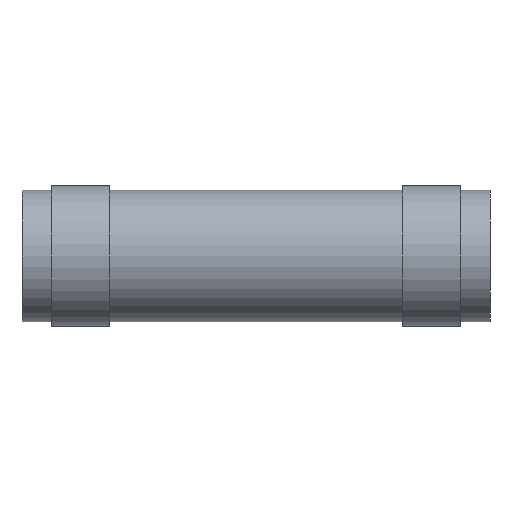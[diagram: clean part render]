
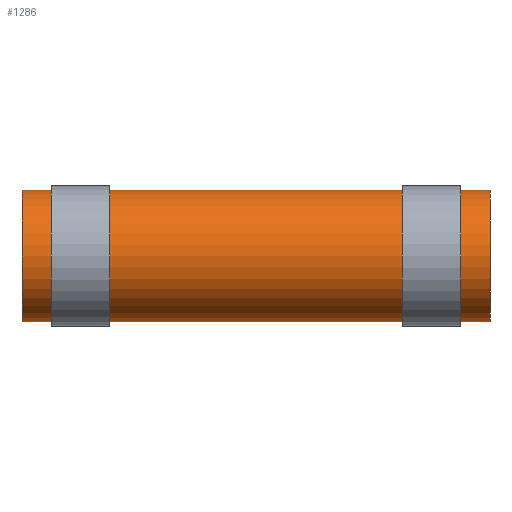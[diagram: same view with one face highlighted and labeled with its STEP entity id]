
A CAD part, front view. The second image highlights one B-rep face of the part: STEP entity #1286.
In plain terms, the highlighted cylindrical face has radius 7.144 mm (diameter 14.288 mm), a partial arc.
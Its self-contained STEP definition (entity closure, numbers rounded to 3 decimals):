
#229 = DIRECTION ( 'NONE',  ( 0., 0., 1. ) ) ;
#233 = CARTESIAN_POINT ( 'NONE',  ( 25.4, 0., 0. ) ) ;
#258 = CARTESIAN_POINT ( 'NONE',  ( 25.4, 0., 0. ) ) ;
#277 = DIRECTION ( 'NONE',  ( 1., 0., 0. ) ) ;
#287 = DIRECTION ( 'NONE',  ( 0., 0., -1. ) ) ;
#312 = DIRECTION ( 'NONE',  ( -1., 0., 0. ) ) ;
#332 = CARTESIAN_POINT ( 'NONE',  ( -25.4, 0., -7.144 ) ) ;
#354 = CARTESIAN_POINT ( 'NONE',  ( 25.4, 0., 7.144 ) ) ;
#357 = DIRECTION ( 'NONE',  ( -1., 0., 0. ) ) ;
#364 = CARTESIAN_POINT ( 'NONE',  ( -25.4, 0., 7.144 ) ) ;
#381 = CARTESIAN_POINT ( 'NONE',  ( 25.4, 0., -7.144 ) ) ;
#387 = CARTESIAN_POINT ( 'NONE',  ( 25.4, 0., 7.144 ) ) ;
#418 = CARTESIAN_POINT ( 'NONE',  ( 25.4, 0., -7.144 ) ) ;
#419 = DIRECTION ( 'NONE',  ( 0., 0., -1. ) ) ;
#450 = DIRECTION ( 'NONE',  ( -1., 0., 0. ) ) ;
#457 = CARTESIAN_POINT ( 'NONE',  ( -25.4, 0., 0. ) ) ;
#461 = DIRECTION ( 'NONE',  ( 1., 0., 0. ) ) ;
#462 = VECTOR ( 'NONE', #357, 1000. ) ;
#463 = LINE ( 'NONE', #354, #462 ) ;
#464 = CIRCLE ( 'NONE', #901, 7.144 ) ;
#544 = VECTOR ( 'NONE', #450, 1000. ) ;
#547 = LINE ( 'NONE', #418, #544 ) ;
#548 = CIRCLE ( 'NONE', #955, 7.144 ) ;
#578 = ORIENTED_EDGE ( 'NONE', *, *, #958, .T. ) ;
#579 = ORIENTED_EDGE ( 'NONE', *, *, #1039, .T. ) ;
#580 = ORIENTED_EDGE ( 'NONE', *, *, #1038, .F. ) ;
#581 = ORIENTED_EDGE ( 'NONE', *, *, #965, .F. ) ;
#648 = EDGE_LOOP ( 'NONE', ( #581, #580, #579, #578 ) ) ;
#692 = VERTEX_POINT ( 'NONE', #364 ) ;
#693 = VERTEX_POINT ( 'NONE', #387 ) ;
#700 = VERTEX_POINT ( 'NONE', #381 ) ;
#798 = VERTEX_POINT ( 'NONE', #332 ) ;
#888 = AXIS2_PLACEMENT_3D ( 'NONE', #258, #312, #229 ) ;
#901 = AXIS2_PLACEMENT_3D ( 'NONE', #233, #277, #287 ) ;
#955 = AXIS2_PLACEMENT_3D ( 'NONE', #457, #461, #419 ) ;
#958 = EDGE_CURVE ( 'NONE', #692, #798, #548, .T. ) ;
#965 = EDGE_CURVE ( 'NONE', #700, #798, #547, .T. ) ;
#1038 = EDGE_CURVE ( 'NONE', #693, #700, #464, .T. ) ;
#1039 = EDGE_CURVE ( 'NONE', #693, #692, #463, .T. ) ;
#1160 = FACE_OUTER_BOUND ( 'NONE', #648, .T. ) ;
#1249 = CYLINDRICAL_SURFACE ( 'NONE', #888, 7.144 ) ;
#1286 = ADVANCED_FACE ( 'NONE', ( #1160 ), #1249, .T. ) ;
